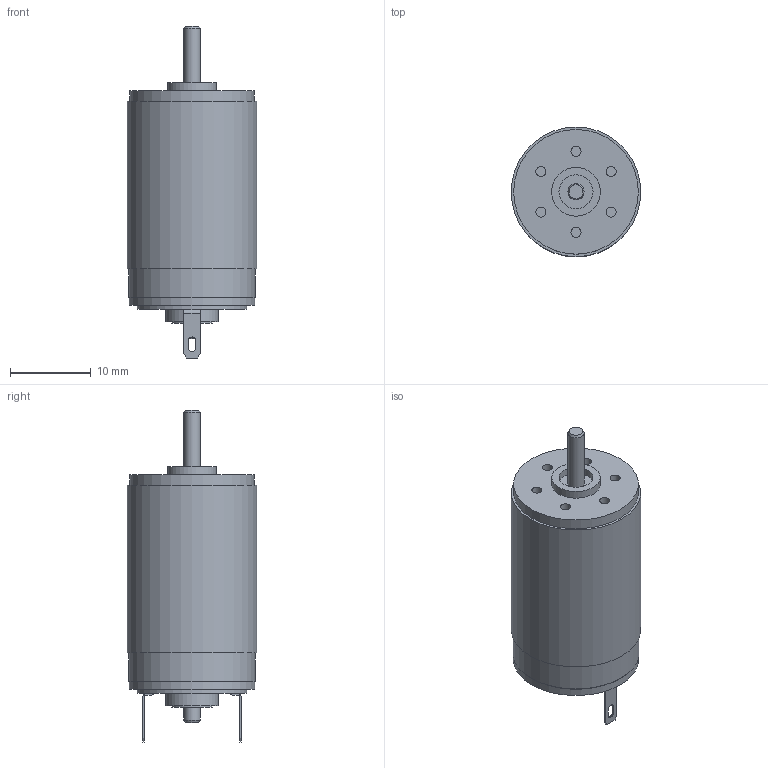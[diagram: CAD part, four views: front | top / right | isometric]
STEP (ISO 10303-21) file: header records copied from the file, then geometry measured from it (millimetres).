
FILE_DESCRIPTION(/* description */ (''),/* implementation_level */ '2;1');
FILE_NAME(/* name */ '1627SXR.stp',/* time_stamp */ '2025-02-10T15:23:02+01:00',/* author */ ('DR. FRITZ FAULHABER GmbH & Co. KG'),/* organization */ ('DR. FRITZ FAULHABER GmbH & Co. KG'),/* preprocessor_version */ 'ST-DEVELOPER v19.3',/* originating_system */ 'SIEMENS PLM Software NX2212.4000',/* authorisation */ '');
FILE_SCHEMA (('AUTOMOTIVE_DESIGN { 1 0 10303 214 3 1 1 1 }'));
Length unit declared in the file: millimetre
Products named in the file (1): B_objects
Bounding box: 16 x 16 x 41 mm (x, y, z)
Volume: 5422 mm3; surface area: 1980.3 mm2
Topology: 1 solids, 1 shells, 97 faces, 220 edges, 149 vertices
Faces by surface type: plane 54, cylinder 37, cone 6
Full cylindrical faces by diameter (mm): 1 x4, 1.25 x6, 2 x2, 4.2 x1, 5 x1, 6 x1, 6.5 x1, 13.58 x1, 15.4 x1, 15.5 x1, 15.6 x1, 16 x1
Entity records: 2538 total; most frequent: DIRECTION 456, CARTESIAN_POINT 414, ORIENTED_EDGE 360, EDGE_CURVE 180, AXIS2_PLACEMENT_3D 178, EDGE_LOOP 152, VERTEX_POINT 136, LINE 100
